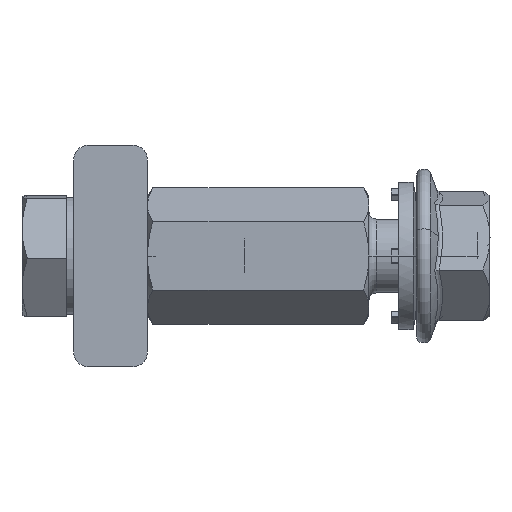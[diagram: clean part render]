
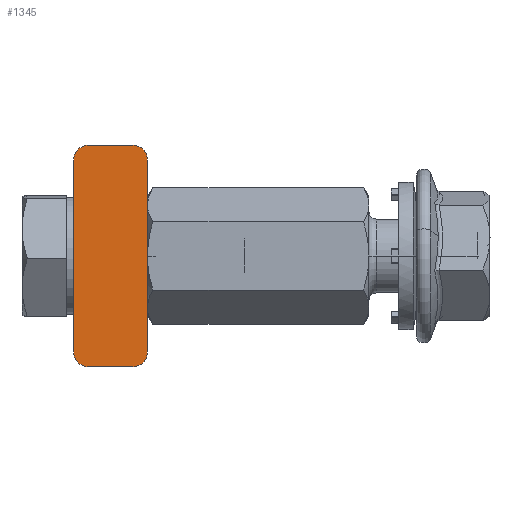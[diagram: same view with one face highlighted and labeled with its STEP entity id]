
A CAD part, left-side view. The second image highlights one B-rep face of the part: STEP entity #1345.
In plain terms, the highlighted planar face has unit normal (-1, 0, 0).
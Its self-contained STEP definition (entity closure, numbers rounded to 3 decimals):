
#188 = CARTESIAN_POINT ( 'NONE',  ( -225., -1., 7.5 ) ) ;
#192 = DIRECTION ( 'NONE',  ( 0., 0., 1. ) ) ;
#206 = CARTESIAN_POINT ( 'NONE',  ( -225., -5., -6.5 ) ) ;
#305 = VERTEX_POINT ( 'NONE', #206 ) ;
#374 = ORIENTED_EDGE ( 'NONE', *, *, #5882, .T. ) ;
#499 = CIRCLE ( 'NONE', #4285, 1. ) ;
#500 = DIRECTION ( 'NONE',  ( 0., 0., 1. ) ) ;
#627 = DIRECTION ( 'NONE',  ( -1., 0., 0. ) ) ;
#631 = EDGE_CURVE ( 'NONE', #1574, #2777, #3632, .T. ) ;
#664 = CARTESIAN_POINT ( 'NONE',  ( -225., -4., 6.5 ) ) ;
#826 = ORIENTED_EDGE ( 'NONE', *, *, #3780, .T. ) ;
#971 = DIRECTION ( 'NONE',  ( 0., 0., 1. ) ) ;
#991 = ORIENTED_EDGE ( 'NONE', *, *, #631, .T. ) ;
#993 = VECTOR ( 'NONE', #6181, 1000. ) ;
#1011 = CARTESIAN_POINT ( 'NONE',  ( -225., -4., -6.5 ) ) ;
#1057 = EDGE_CURVE ( 'NONE', #2889, #305, #3397, .T. ) ;
#1116 = AXIS2_PLACEMENT_3D ( 'NONE', #664, #2738, #4815 ) ;
#1130 = ORIENTED_EDGE ( 'NONE', *, *, #1057, .T. ) ;
#1147 = EDGE_CURVE ( 'NONE', #2889, #2157, #2802, .T. ) ;
#1345 = ADVANCED_FACE ( 'NONE', ( #5633 ), #3033, .T. ) ;
#1521 = CARTESIAN_POINT ( 'NONE',  ( -225., -1., 6.5 ) ) ;
#1574 = VERTEX_POINT ( 'NONE', #5352 ) ;
#1589 = CARTESIAN_POINT ( 'NONE',  ( -225., 0., -7.5 ) ) ;
#1695 = CARTESIAN_POINT ( 'NONE',  ( -225., -5., -7.5 ) ) ;
#1987 = CARTESIAN_POINT ( 'NONE',  ( -225., -4., -7.5 ) ) ;
#1992 = CIRCLE ( 'NONE', #1116, 1. ) ;
#2138 = CARTESIAN_POINT ( 'NONE',  ( -225., -5., 7.5 ) ) ;
#2157 = VERTEX_POINT ( 'NONE', #3492 ) ;
#2319 = VECTOR ( 'NONE', #4200, 1000. ) ;
#2431 = DIRECTION ( 'NONE',  ( 0., 0., 1. ) ) ;
#2534 = CARTESIAN_POINT ( 'NONE',  ( -225., -5., -7.5 ) ) ;
#2651 = EDGE_LOOP ( 'NONE', ( #5934, #1130, #826, #374, #991, #5307, #6073, #6462 ) ) ;
#2675 = CARTESIAN_POINT ( 'NONE',  ( -225., 0., 6.5 ) ) ;
#2738 = DIRECTION ( 'NONE',  ( -1., 0., 0. ) ) ;
#2777 = VERTEX_POINT ( 'NONE', #188 ) ;
#2802 = LINE ( 'NONE', #1695, #6654 ) ;
#2889 = VERTEX_POINT ( 'NONE', #1987 ) ;
#3033 = PLANE ( 'NONE',  #3731 ) ;
#3118 = DIRECTION ( 'NONE',  ( -1., 0., 0. ) ) ;
#3397 = CIRCLE ( 'NONE', #3946, 1. ) ;
#3442 = DIRECTION ( 'NONE',  ( -1., 0., 0. ) ) ;
#3492 = CARTESIAN_POINT ( 'NONE',  ( -225., -1., -7.5 ) ) ;
#3576 = CARTESIAN_POINT ( 'NONE',  ( -225., 0., -6.5 ) ) ;
#3632 = LINE ( 'NONE', #2138, #2319 ) ;
#3731 = AXIS2_PLACEMENT_3D ( 'NONE', #2534, #3442, #2431 ) ;
#3780 = EDGE_CURVE ( 'NONE', #305, #6060, #4100, .T. ) ;
#3781 = CARTESIAN_POINT ( 'NONE',  ( -225., -1., -6.5 ) ) ;
#3819 = VECTOR ( 'NONE', #971, 1000. ) ;
#3946 = AXIS2_PLACEMENT_3D ( 'NONE', #1011, #3118, #4166 ) ;
#4045 = CARTESIAN_POINT ( 'NONE',  ( -225., -5., 6.5 ) ) ;
#4100 = LINE ( 'NONE', #5123, #993 ) ;
#4166 = DIRECTION ( 'NONE',  ( 0., 0., 1. ) ) ;
#4200 = DIRECTION ( 'NONE',  ( 0., 1., 0. ) ) ;
#4222 = CIRCLE ( 'NONE', #5534, 1. ) ;
#4285 = AXIS2_PLACEMENT_3D ( 'NONE', #1521, #5674, #500 ) ;
#4802 = EDGE_CURVE ( 'NONE', #5224, #4954, #6681, .T. ) ;
#4815 = DIRECTION ( 'NONE',  ( 0., 0., 1. ) ) ;
#4875 = DIRECTION ( 'NONE',  ( 0., 1., 0. ) ) ;
#4951 = EDGE_CURVE ( 'NONE', #5224, #2157, #4222, .T. ) ;
#4954 = VERTEX_POINT ( 'NONE', #2675 ) ;
#5123 = CARTESIAN_POINT ( 'NONE',  ( -225., -5., -7.5 ) ) ;
#5224 = VERTEX_POINT ( 'NONE', #3576 ) ;
#5307 = ORIENTED_EDGE ( 'NONE', *, *, #5724, .T. ) ;
#5352 = CARTESIAN_POINT ( 'NONE',  ( -225., -4., 7.5 ) ) ;
#5534 = AXIS2_PLACEMENT_3D ( 'NONE', #3781, #627, #192 ) ;
#5633 = FACE_OUTER_BOUND ( 'NONE', #2651, .T. ) ;
#5674 = DIRECTION ( 'NONE',  ( -1., 0., 0. ) ) ;
#5724 = EDGE_CURVE ( 'NONE', #2777, #4954, #499, .T. ) ;
#5882 = EDGE_CURVE ( 'NONE', #6060, #1574, #1992, .T. ) ;
#5934 = ORIENTED_EDGE ( 'NONE', *, *, #1147, .F. ) ;
#6060 = VERTEX_POINT ( 'NONE', #4045 ) ;
#6073 = ORIENTED_EDGE ( 'NONE', *, *, #4802, .F. ) ;
#6181 = DIRECTION ( 'NONE',  ( 0., 0., 1. ) ) ;
#6462 = ORIENTED_EDGE ( 'NONE', *, *, #4951, .T. ) ;
#6654 = VECTOR ( 'NONE', #4875, 1000. ) ;
#6681 = LINE ( 'NONE', #1589, #3819 ) ;
